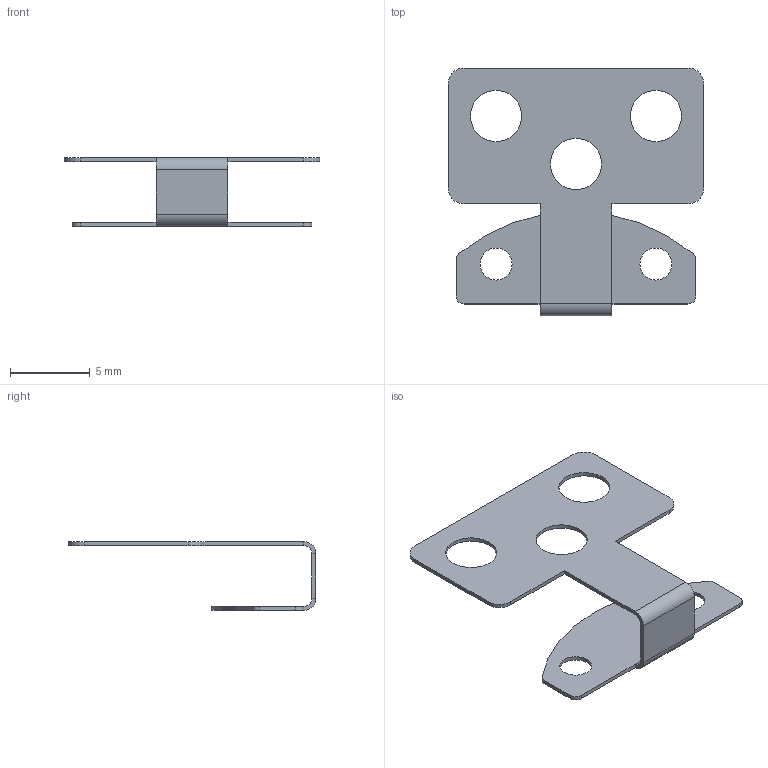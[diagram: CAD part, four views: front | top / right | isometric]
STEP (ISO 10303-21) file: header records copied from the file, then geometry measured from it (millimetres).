
FILE_DESCRIPTION (( 'STEP AP214' ), '1' );
FILE_NAME ('UN_Part5.STEP', '2024-07-18T06:25:50', ( '' ), ( '' ), 'SwSTEP 2.0', 'SolidWorks 2023', '' );
FILE_SCHEMA (( 'AUTOMOTIVE_DESIGN' ));
Length unit declared in the file: millimetre
Products named in the file (1): UN_Part5
Bounding box: 16 x 15.5 x 4.3 mm (x, y, z)
Volume: 56.9 mm3; surface area: 490.5 mm2
Topology: 1 solids, 1 shells, 47 faces, 119 edges, 74 vertices
Faces by surface type: cylinder 24, plane 23
Entity records: 1456 total; most frequent: DIRECTION 263, CARTESIAN_POINT 241, ORIENTED_EDGE 238, EDGE_CURVE 119, AXIS2_PLACEMENT_3D 96, VERTEX_POINT 74, LINE 71, VECTOR 71
